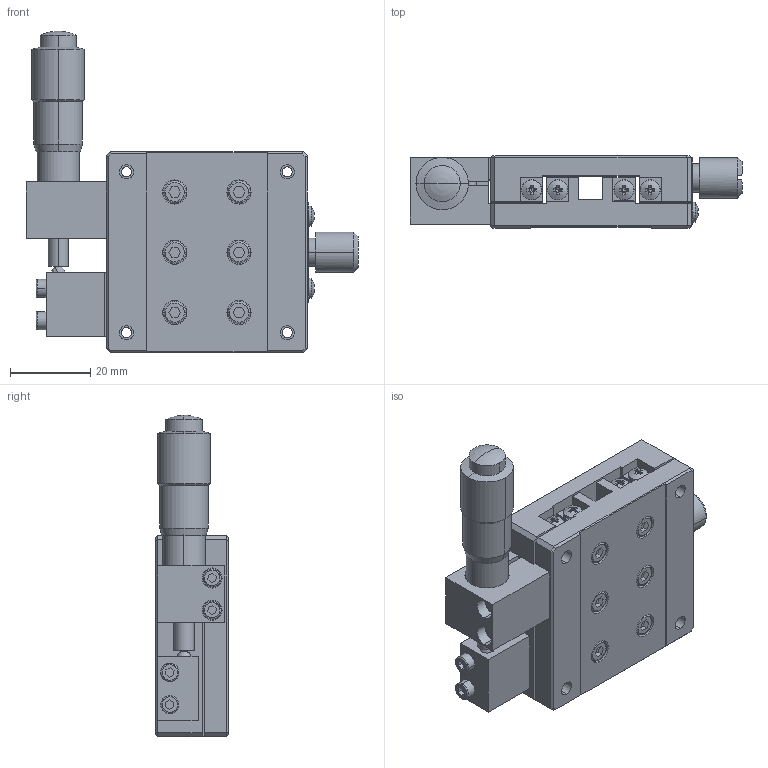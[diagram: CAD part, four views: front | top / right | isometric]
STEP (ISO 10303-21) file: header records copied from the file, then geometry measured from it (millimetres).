
FILE_DESCRIPTION (( 'STEP AP203' ), '1' );
FILE_NAME ('LX50-L.STEP', '2013-12-20T08:15:45', ( 'pengyu' ), ( '' ), 'SwSTEP 2.0', 'SolidWorks 2011', '' );
FILE_SCHEMA (( 'CONFIG_CONTROL_DESIGN' ));
Length unit declared in the file: millimetre
Products named in the file (4): LX50-L; MT13-1-1; L50L-2; L50L-1
Assembly tree (3 placements, depth 2):
  LX50-L
    L50L-2
    L50L-1
    MT13-1-1
Bounding box: 82.6 x 18 x 80 mm (x, y, z)
Volume: 49747.6 mm3; surface area: 26139.8 mm2
Topology: 3 solids, 7 shells, 761 faces, 1897 edges, 1204 vertices
Faces by surface type: plane 451, cylinder 164, cone 94, bspline 50, torus 2
Entity records: 23795 total; most frequent: CARTESIAN_POINT 5392, ORIENTED_EDGE 3742, DIRECTION 3729, EDGE_CURVE 1871, AXIS2_PLACEMENT_3D 1349, VERTEX_POINT 1204, LINE 1031, VECTOR 1031
